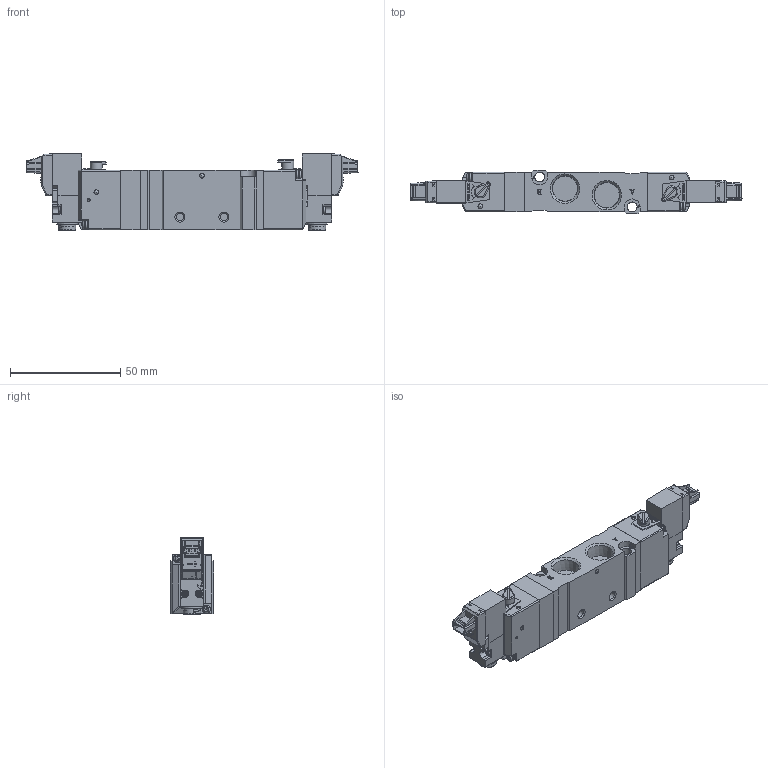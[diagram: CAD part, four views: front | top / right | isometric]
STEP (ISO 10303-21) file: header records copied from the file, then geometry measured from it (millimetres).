
FILE_DESCRIPTION(/* description */ (''),/* implementation_level */ '2;1');
FILE_NAME(/* name */ '\\JPN442FGSVGIJ\Gijyutu\技術グループ\Winovation\Winovation Projects\ADEX Valve in-line\ADEX Plus 3D CAD\P2A20RS\P2A20R※35-1P-02_Shrinkwrap_1.stp',/* time_stamp */ '2015-01-05T16:50:47+09:00',/* author */ ('hm161442'),/* organization */ (''),/* preprocessor_version */ 'ST-DEVELOPER v15.2',/* originating_system */ 'Autodesk Inventor 2014',/* authorisation */ '');
FILE_SCHEMA (('AUTOMOTIVE_DESIGN { 1 0 10303 214 3 1 1 }'));
Products named in the file (1): P2A20R※35-1P-02_Shrinkwrap_1
Bounding box: 150.9 x 19.8 x 34.6 mm (x, y, z)
Volume: 53383.4 mm3; surface area: 19968 mm2
Topology: 1 solids, 1 shells, 1799 faces, 4720 edges, 2980 vertices
Faces by surface type: plane 1093, cylinder 349, bspline 145, cone 83, torus 66, sphere 63
Full cylindrical faces by diameter (mm): 1.3 x6, 2 x4, 2.1 x4, 2.15 x2, 2.2 x1, 2.7 x2, 2.8 x2, 3.4 x2, 3.5 x6, 3.8 x4, 4.4 x2, 4.5 x4, 5.5 x2, 8 x2, 8.1 x2
Entity records: 62936 total; most frequent: CARTESIAN_POINT 18598, ORIENTED_EDGE 9020, DIRECTION 8406, EDGE_CURVE 4510, VERTEX_POINT 2908, LINE 2830, VECTOR 2830, AXIS2_PLACEMENT_3D 2788
